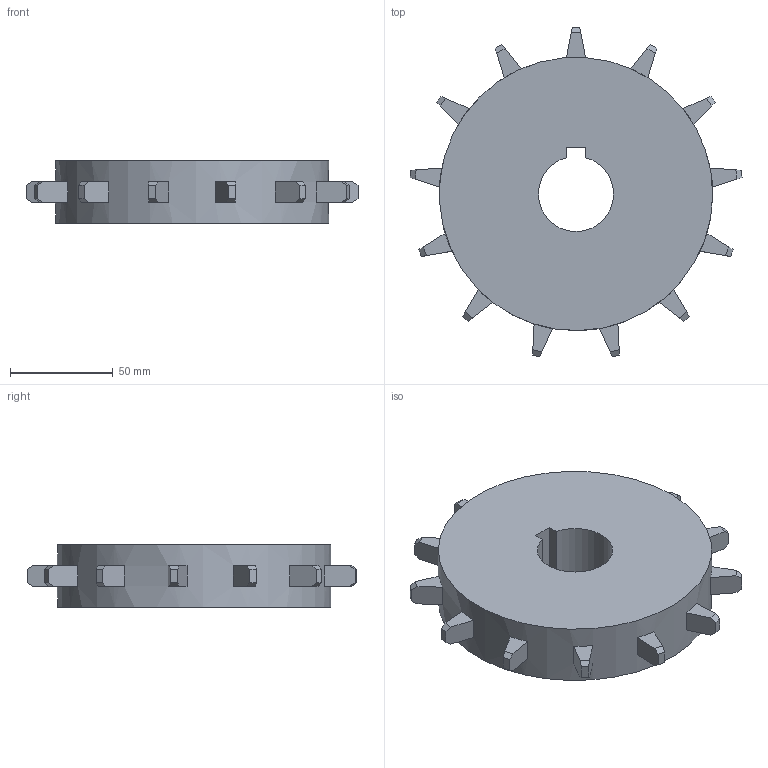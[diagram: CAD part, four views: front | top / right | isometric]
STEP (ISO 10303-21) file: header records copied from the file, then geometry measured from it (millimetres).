
FILE_DESCRIPTION((''),'2;1');
FILE_NAME('S2900_SPROCKET_62_RND','2020-11-23T15:34:56',('rklein'),('INTRALOX'),'CREO PARAMETRIC BY PTC INC, 2019471','CREO PARAMETRIC BY PTC INC, 2019471','');
FILE_SCHEMA(('CONFIG_CONTROL_DESIGN'));
Length unit declared in the file: inch
Products named in the file (1): S2900_SPROCKET_62_RND
Bounding box: 161.18 x 160.01 x 30.48 mm (x, y, z)
Volume: 400699.4 mm3; surface area: 47406.1 mm2
Topology: 1 solids, 1 shells, 99 faces, 252 edges, 168 vertices
Faces by surface type: plane 96, cylinder 3
Entity records: 3002 total; most frequent: CARTESIAN_POINT 519, ORIENTED_EDGE 504, DIRECTION 482, EDGE_CURVE 252, VECTOR 220, LINE 220, VERTEX_POINT 168, AXIS2_PLACEMENT_3D 131
